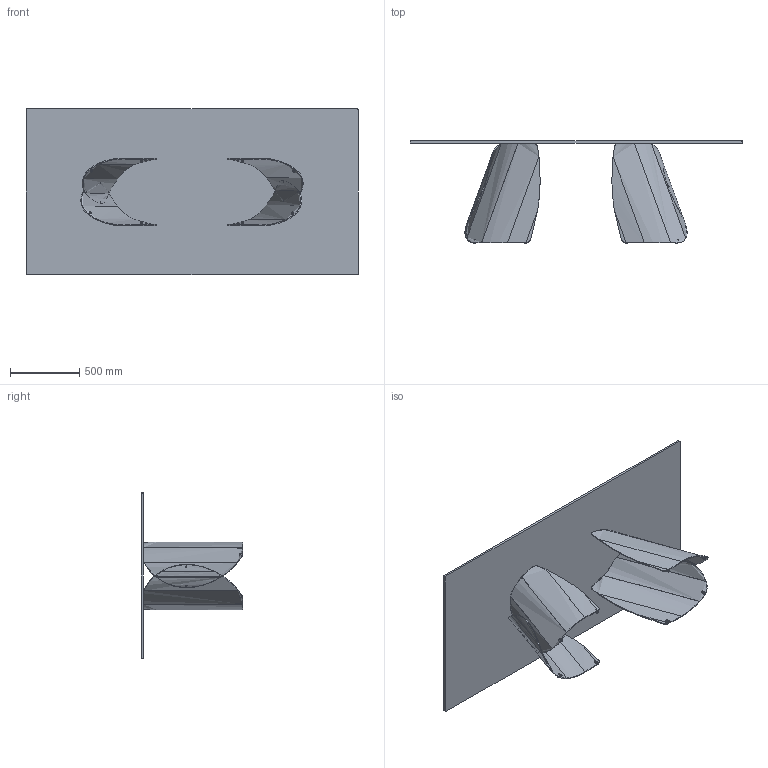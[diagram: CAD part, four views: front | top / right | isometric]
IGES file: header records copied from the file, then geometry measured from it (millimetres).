
Start section: SolidWorks IGES file using analytic representation for surfaces
Global section: file name: Y:\eforma\TECNICO\SOLIDWORKS\E-FORMA\1-TAVOLI\PERLA\02 parts\PA23G_Perla 240x120_Glass Rectangular.IGS; native system: SolidWorks 2022; preprocessor: SolidWorks 2022; author: eforma.tech; date: 240801.145317; units: millimetre
Bounding box: 2400 x 736.5 x 1200 mm (x, y, z)
Volume: 53178712.1 mm3; surface area: 9265579.7 mm2
Topology: 33 solids, 33 shells, 476 faces, 1054 edges, 644 vertices
Faces by surface type: revolution 240, bspline 130, plane 106
